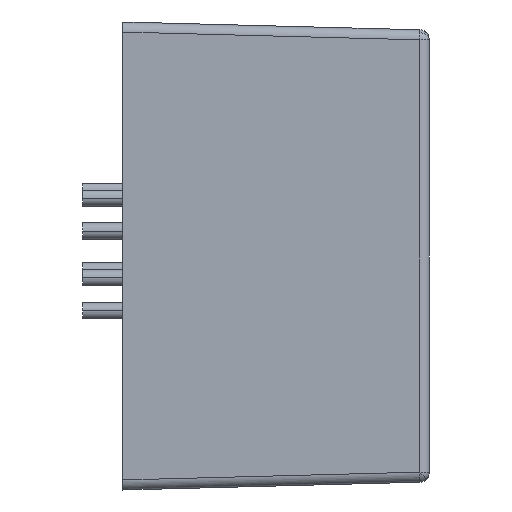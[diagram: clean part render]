
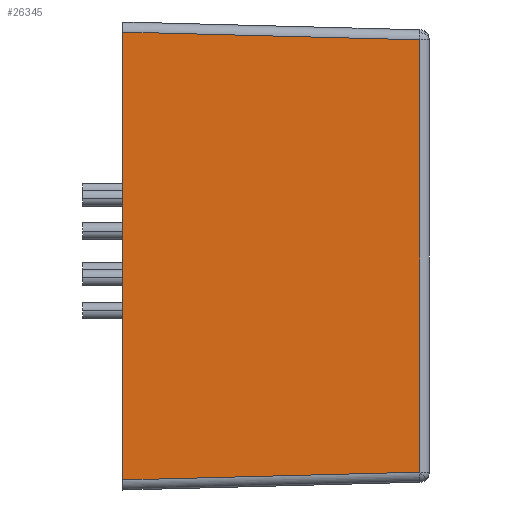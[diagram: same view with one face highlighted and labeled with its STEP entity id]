
A CAD part, left-side view. The second image highlights one B-rep face of the part: STEP entity #26345.
In plain terms, the highlighted planar face has unit normal (-1, -0.026, 0).
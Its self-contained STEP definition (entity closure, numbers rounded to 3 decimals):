
#377 = LINE ( 'NONE', #49999, #88951 ) ;
#1669 = DIRECTION ( 'NONE',  ( 0., 0., -1. ) ) ;
#21399 = LINE ( 'NONE', #59853, #76593 ) ;
#22602 = DIRECTION ( 'NONE',  ( 0.026, -0.999, -0.026 ) ) ;
#22755 = CARTESIAN_POINT ( 'NONE',  ( -40.855, -3.726, 21.441 ) ) ;
#25477 = CARTESIAN_POINT ( 'NONE',  ( -40.855, -3.726, -21.454 ) ) ;
#26345 = ADVANCED_FACE ( 'NONE', ( #53663 ), #74617, .T. ) ;
#29067 = VECTOR ( 'NONE', #83369, 1000. ) ;
#32218 = EDGE_LOOP ( 'NONE', ( #115269, #41762, #105888, #99013 ) ) ;
#38653 = AXIS2_PLACEMENT_3D ( 'NONE', #73321, #64122, #124277 ) ;
#41762 = ORIENTED_EDGE ( 'NONE', *, *, #111066, .T. ) ;
#49999 = CARTESIAN_POINT ( 'NONE',  ( -41.626, 25.7, 22.211 ) ) ;
#51123 = VERTEX_POINT ( 'NONE', #100886 ) ;
#53663 = FACE_OUTER_BOUND ( 'NONE', #32218, .T. ) ;
#53678 = VERTEX_POINT ( 'NONE', #75473 ) ;
#57096 = VERTEX_POINT ( 'NONE', #22755 ) ;
#59853 = CARTESIAN_POINT ( 'NONE',  ( -40.855, -3.726, -21.454 ) ) ;
#62336 = CARTESIAN_POINT ( 'NONE',  ( -41.626, 25.7, 22.211 ) ) ;
#64122 = DIRECTION ( 'NONE',  ( -1., -0.026, 0. ) ) ;
#73321 = CARTESIAN_POINT ( 'NONE',  ( -40.908, -1.695, -23.007 ) ) ;
#74617 = PLANE ( 'NONE',  #38653 ) ;
#75473 = CARTESIAN_POINT ( 'NONE',  ( -41.626, 25.7, -22.224 ) ) ;
#76593 = VECTOR ( 'NONE', #91239, 1000. ) ;
#83369 = DIRECTION ( 'NONE',  ( -0.026, 0.999, -0.026 ) ) ;
#88951 = VECTOR ( 'NONE', #1669, 1000. ) ;
#91239 = DIRECTION ( 'NONE',  ( 0., 0., 1. ) ) ;
#99013 = ORIENTED_EDGE ( 'NONE', *, *, #125861, .T. ) ;
#100886 = CARTESIAN_POINT ( 'NONE',  ( -41.626, 25.7, 22.211 ) ) ;
#100977 = LINE ( 'NONE', #62336, #120886 ) ;
#102978 = CARTESIAN_POINT ( 'NONE',  ( -40.855, -3.726, -21.454 ) ) ;
#103606 = EDGE_CURVE ( 'NONE', #121318, #53678, #114057, .T. ) ;
#105888 = ORIENTED_EDGE ( 'NONE', *, *, #103606, .F. ) ;
#111066 = EDGE_CURVE ( 'NONE', #51123, #53678, #377, .T. ) ;
#113066 = EDGE_CURVE ( 'NONE', #51123, #57096, #100977, .T. ) ;
#114057 = LINE ( 'NONE', #102978, #29067 ) ;
#115269 = ORIENTED_EDGE ( 'NONE', *, *, #113066, .F. ) ;
#120886 = VECTOR ( 'NONE', #22602, 1000. ) ;
#121318 = VERTEX_POINT ( 'NONE', #25477 ) ;
#124277 = DIRECTION ( 'NONE',  ( -0.026, 1., 0. ) ) ;
#125861 = EDGE_CURVE ( 'NONE', #121318, #57096, #21399, .T. ) ;
